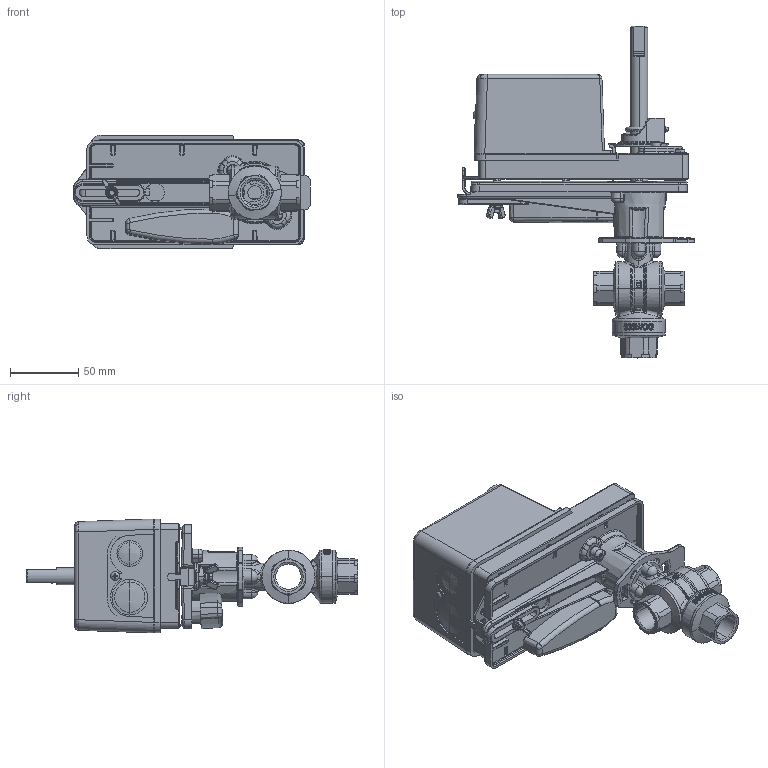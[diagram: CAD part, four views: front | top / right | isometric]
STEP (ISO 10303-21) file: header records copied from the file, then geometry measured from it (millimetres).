
FILE_DESCRIPTION (( 'STEP AP203' ), '1' );
FILE_NAME ('FUR3.A.x.I.B.1.30.step', '2024-04-24T07:51:35', ( '' ), ( '' ), 'SwSTEP 2.0', 'SolidWorks 2023', '' );
FILE_SCHEMA (( 'CONFIG_CONTROL_DESIGN' ));
Products named in the file (1): FUR3.A.x.I.B.1.30
Bounding box: 173.9 x 243.64 x 83.66 mm (x, y, z)
Surface area: 137128.9 mm2 (no closed solid volume)
Topology: 0 solids, 41 shells, 1706 faces, 5626 edges, 3795 vertices
Faces by surface type: cylinder 502, bspline 443, plane 408, torus 189, cone 136, sphere 28
Entity records: 81724 total; most frequent: CARTESIAN_POINT 38187, ORIENTED_EDGE 9067, DIRECTION 8030, EDGE_CURVE 5605, VERTEX_POINT 3794, AXIS2_PLACEMENT_3D 2992, LINE 2046, VECTOR 2046
